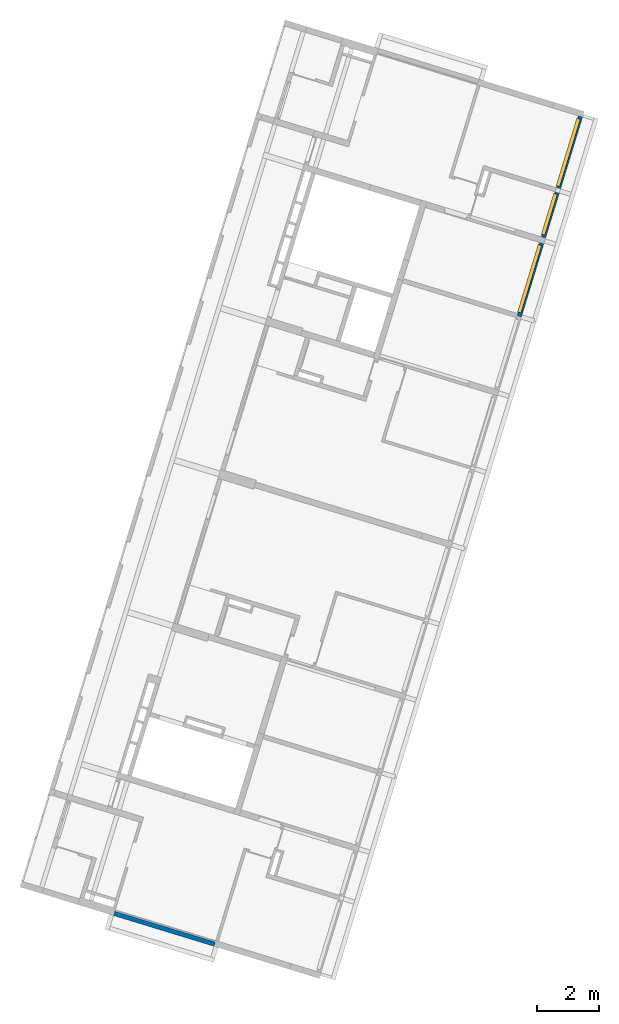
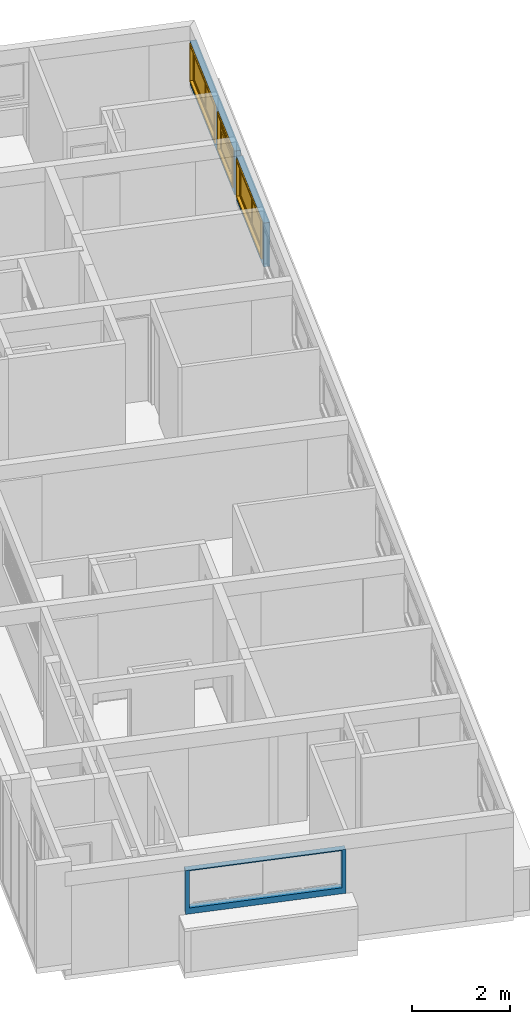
# One storey, part 10 of 18: 3 windows, 2 walls, 4 openings.
"""IFC2X3 building model written with IfcOpenShell, lengths in millimetres."""

from ifc_helpers import new_model, entity, si_unit, converted_unit, derived_unit, money_unit, direction, frame, origin_with_axes, place, context, subcontext, project, spatial, open_shell, faceted_brep, surface_model, source, transform, mapped, material, type_object, element, fill, save


model = new_model("IFC2X3")

# Units and contexts
model_context = context("Model", 3, precision=0.01, world=origin_with_axes(), true_north=direction((0.0, 1.0)))
body_context = subcontext(model_context, "Body", "Model", "MODEL_VIEW")
ifc_project = project(units=[si_unit("LENGTHUNIT", "METRE", prefix="MILLI"), si_unit("AREAUNIT", "SQUARE_METRE"), si_unit("VOLUMEUNIT", "CUBIC_METRE"), converted_unit("PLANEANGLEUNIT", "DEGREE", entity("IfcPlaneAngleMeasure", 0.0174532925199), si_unit("PLANEANGLEUNIT", "RADIAN"), dimensions=[0, 0, 0, 0, 0, 0, 0]), money_unit("USD"), converted_unit("TIMEUNIT", "Year", entity("IfcTimeMeasure", 31556926.0), si_unit("TIMEUNIT", "SECOND"), dimensions=[0, 0, 1, 0, 0, 0, 0]), si_unit("MASSUNIT", "GRAM", prefix="KILO"), si_unit("THERMODYNAMICTEMPERATUREUNIT", "DEGREE_CELSIUS"), si_unit("LUMINOUSINTENSITYUNIT", "LUMEN"), si_unit("ENERGYUNIT", "JOULE", prefix="MEGA"), derived_unit("THERMALCONDUCTANCEUNIT", [(si_unit("POWERUNIT", "WATT"), 1), (si_unit("LENGTHUNIT", "METRE"), -1), (si_unit("THERMODYNAMICTEMPERATUREUNIT", "KELVIN"), -1)]), derived_unit("SPECIFICHEATCAPACITYUNIT", [(si_unit("ENERGYUNIT", "JOULE"), 1), (si_unit("MASSUNIT", "GRAM", prefix="KILO"), -1), (si_unit("THERMODYNAMICTEMPERATUREUNIT", "KELVIN"), -1)]), derived_unit("MASSDENSITYUNIT", [(si_unit("MASSUNIT", "GRAM", prefix="KILO"), 1), (si_unit("VOLUMEUNIT", "CUBIC_METRE"), -1)])], contexts=[model_context])

# Site, building, storey, space
site_placement = place(None, frame((0.0, 0.0, 0.0), z_axis=(0.0, 0.0, 1.0), x_axis=(0.956304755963, -0.292371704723, 0.0)))
site = spatial("IfcSite", under=ifc_project, at=site_placement, Name="Site", CompositionType="ELEMENT")
building_placement = place(site_placement, origin_with_axes())
building = spatial("IfcBuilding", under=site, at=building_placement, Name="Building", CompositionType="ELEMENT")
storey_placement = place(building_placement, origin_with_axes())
storey = spatial("IfcBuildingStorey", under=building, at=storey_placement, Name="Pavimento tipo", CompositionType="ELEMENT", Elevation=0.0)
space_1_placement = place(storey_placement, frame((1481.71507604, 4250.00139822, 0.0), z_axis=(0.0, 0.0, 1.0), x_axis=(3.39571890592e-07, -1.0, 0.0)))
space_1 = spatial("IfcSpace", under=storey, at=space_1_placement, Name="01", CompositionType="ELEMENT", InteriorOrExteriorSpace="INTERNAL")

# Wall, opening
ifc_material = material(Name="Tijolo - Estrutural")
wall_type = type_object("IfcWallType", Name="Tijolo - Estrutural 140", PredefinedType="NOTDEFINED")
wall_1_placement = place(space_1_placement, frame((4250.00154947, 1059.9948804, 1100.0), z_axis=(0.0, 0.0, 1.0), x_axis=(3.87173158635e-07, 1.0, 0.0)))
wall_1 = element("IfcWall", 1, at=wall_1_placement, inside=space_1, type_object=wall_type, material=ifc_material, Name="Apt 01 - Parede 03", context=body_context, shape_type="Brep", body=[
    faceted_brep([(75.0043393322, 3.57030174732e-06, 1075.0), (75.004332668, 140.00000357, 1075.0), (3295.00433267, 140.000156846, 1075.0), (3295.00433933, 0.000156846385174, 1075.0), (75.004332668, 140.00000357, 150.0), (75.0043393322, 3.57030169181e-06, 150.0), (-6.66417765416e-06, 140.0, 1100.0), (3370.00164785, 140.000160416, 1100.0), (3370.00164785, 140.000160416, 0.0), (-6.66417765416e-06, 140.0, 0.0), (3295.00433267, 140.000156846, 150.0), (3295.00433933, 0.000156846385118, 150.0), (0.0, 0.0, 0.0), (3370.00165451, 0.00016041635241, 0.0), (3370.00165451, 0.000160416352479, 1100.0), (0.0, 0.0, 1100.0)], [[[0, 1, 2, 3]], [[4, 1, 0, 5]], [[6, 7, 8, 9], [4, 10, 2, 1]], [[3, 2, 10, 11]], [[12, 13, 14, 15], [0, 3, 11, 5]], [[10, 4, 5, 11]], [[15, 14, 7, 6]], [[13, 8, 7, 14]], [[9, 8, 13, 12]], [[6, 9, 12, 15]]]),
])
opening_1_placement = place(wall_1_placement, frame((1685.00433933, 0.0, 150.0), z_axis=(0.0, 0.0, 1.0), x_axis=(1.0, 0.0, 0.0)))
element("IfcOpeningElement", 2, at=opening_1_placement, cuts=wall_1, Name="Apt 01 - J06", context=body_context, shape_type="Brep", body=[
    faceted_brep([(1609.99999334, 140.000156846, 0.0), (1609.99999334, 140.000156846, 925.0), (1609.99999762, 50.0001568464, 925.0), (1609.99999762, 50.0001568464, 0.0), (-1685.00000666, 140.0, 1000.0), (-1685.00000666, 140.0, -75.0), (1684.99999334, 140.000160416, -75.0), (1684.99999334, 140.000160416, 1000.0), (-1610.00000666, 140.00000357, 925.0), (-1610.00000666, 140.00000357, 0.0), (-1610.00000238, 50.0000035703, 925.0), (-1609.99999995, -1.00015684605, 925.0), (1610.00000005, -1.00000356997, 925.0), (1610.00000005, -1.00000356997, 0.0), (-1609.99999995, -1.00015684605, 0.0), (-1610.00000238, 50.0000035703, 0.0), (-1685.00000671, 141.0, 1000.0), (-1685.00000671, 141.0, -75.0), (1684.99999329, 141.000160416, -75.0), (1684.99999329, 141.000160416, 1000.0)], [[[0, 1, 2, 3]], [[4, 5, 6, 7], [8, 1, 0, 9]], [[1, 8, 10, 11, 12, 2]], [[3, 2, 12, 13]], [[9, 0, 3, 13, 14, 15]], [[5, 4, 16, 17]], [[6, 5, 17, 18]], [[7, 6, 18, 19]], [[4, 7, 19, 16]], [[8, 9, 15, 10]], [[10, 15, 14, 11]], [[11, 14, 13, 12]], [[18, 17, 16, 19]]]),
])

# Space
space_2_placement = place(storey_placement, frame((1481.71158317, 24839.9981298, 0.0), z_axis=(0.0, 0.0, 1.0), x_axis=(1.0, -1.55460451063e-08, 0.0)))
space_2 = spatial("IfcSpace", under=storey, at=space_2_placement, Name="04", CompositionType="ELEMENT", InteriorOrExteriorSpace="INTERNAL")

# Wall, openings, windows
wall_2_placement = place(space_2_placement, frame((7960.00096215, 4059.99202827, 1100.0), z_axis=(0.0, 0.0, 1.0), x_axis=(1.40741188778e-07, -1.0, 0.0)))
wall_2 = element("IfcWall", 3, at=wall_2_placement, inside=space_2, type_object=wall_type, material=ifc_material, Name="Apt 04 - Parede 24", context=body_context, shape_type="Brep", body=[
    faceted_brep([(4249.99998247, -140.0, 0.0), (6705.00534975, -140.0, 0.0), (6705.00534975, -140.0, 1100.0), (4249.99998247, -140.0, 1100.0), (6585.00533222, -140.0, 150.0), (4325.00533222, -140.0, 150.0), (4325.00533222, -140.0, 1075.0), (6585.00533222, -140.0, 1075.0), (4250.0, -0.00222626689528, 0.0), (6705.00534975, 0.0, 0.0), (6705.00534975, 0.0, 1100.0), (4250.0, -0.00222626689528, 1100.0), (6585.00533222, 0.0, 150.0), (4325.00533222, 0.0, 150.0), (4325.00533222, 0.0, 1075.0), (6585.00533222, 0.0, 1075.0)], [[[0, 1, 2, 3], [4, 5, 6, 7]], [[8, 9, 1, 0]], [[2, 1, 9, 10]], [[3, 2, 10, 11]], [[11, 8, 0, 3]], [[5, 4, 12, 13]], [[14, 6, 5, 13]], [[15, 7, 6, 14]], [[4, 7, 15, 12]], [[11, 10, 9, 8], [15, 14, 13, 12]]]),
    faceted_brep([(0.0, -140.0, 0.0), (4059.99998247, -140.0, 0.0), (4059.99998247, -140.0, 1100.0), (0.0, -140.0, 1100.0), (87.5053322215, -140.0, 1075.0), (2347.50533222, -140.0, 1075.0), (2347.50533222, -140.0, 150.0), (87.5053322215, -140.0, 150.0), (3977.50533222, -140.0, 150.0), (2607.50533222, -140.0, 150.0), (2607.50533222, -140.0, 1075.0), (3977.50533222, -140.0, 1075.0), (0.0, 0.0, 0.0), (4060.0, -0.00220247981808, 0.0), (4060.0, -0.00220247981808, 1100.0), (0.0, 0.0, 1100.0), (87.5053322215, 0.0, 1075.0), (2347.50533222, 0.0, 1075.0), (2347.50533222, 0.0, 150.0), (87.5053322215, 0.0, 150.0), (3977.50533222, -0.00220247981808, 150.0), (2607.50533222, -0.00220247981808, 150.0), (2607.50533222, -0.00220247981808, 1075.0), (3977.50533222, -0.00220247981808, 1075.0)], [[[0, 1, 2, 3], [4, 5, 6, 7], [8, 9, 10, 11]], [[12, 13, 1, 0]], [[1, 13, 14, 2]], [[3, 2, 14, 15]], [[12, 0, 3, 15]], [[4, 16, 17, 5]], [[17, 18, 6, 5]], [[18, 19, 7, 6]], [[7, 19, 16, 4]], [[9, 8, 20, 21]], [[22, 10, 9, 21]], [[23, 11, 10, 22]], [[8, 11, 23, 20]], [[15, 14, 13, 12], [19, 18, 17, 16], [23, 22, 21, 20]]]),
])
opening_2_placement = place(wall_2_placement, frame((1217.50533222, 0.0, 150.0), z_axis=(0.0, 0.0, 1.0), x_axis=(1.0, 0.0, 0.0)))
opening_2 = element("IfcOpeningElement", 4, at=opening_2_placement, cuts=wall_2, Name="Apt 04 - J07", context=body_context, shape_type="Brep", body=[
    faceted_brep([(1145.0, -141.000839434, 940.0), (-1145.0, -141.000839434, 940.0), (-1145.0, -141.000839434, -15.0), (1145.0, -141.000839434, -15.0), (1145.0, -140.0, 940.0), (-1145.0, -140.0, 940.0), (-1145.0, -140.0, -15.0), (1145.0, -140.0, -15.0), (1130.0, -140.0, 925.0), (-1130.0, -140.0, 925.0), (-1130.0, -140.0, 0.0), (1130.0, -140.0, 0.0), (1130.0, -50.0, 925.0), (1130.0, 1.0008394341, 925.0), (-1130.0, 1.00083943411, 925.0), (-1130.0, -50.0, 925.0), (-1130.0, -50.0, 0.0), (-1130.0, 1.00083943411, 0.0), (1130.0, 1.0008394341, 0.0), (1130.0, -50.0, 0.0)], [[[0, 1, 2, 3]], [[4, 5, 1, 0]], [[5, 6, 2, 1]], [[6, 7, 3, 2]], [[7, 4, 0, 3]], [[6, 5, 4, 7], [8, 9, 10, 11]], [[9, 8, 12, 13, 14, 15]], [[10, 9, 15, 16]], [[11, 10, 16, 17, 18, 19]], [[8, 11, 19, 12]], [[12, 19, 18, 13]], [[13, 18, 17, 14]], [[16, 15, 14, 17]]]),
])
opening_3_placement = place(wall_2_placement, frame((5455.00533222, 0.0, 150.0), z_axis=(0.0, 0.0, 1.0), x_axis=(1.0, 0.0, 0.0)))
opening_3 = element("IfcOpeningElement", 5, at=opening_3_placement, cuts=wall_2, Name="Apt 04 - J09", context=body_context, shape_type="Brep", body=[
    faceted_brep([(-1145.0, -141.000839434, -15.0), (1145.0, -141.000839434, -15.0), (1145.0, -141.000839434, 940.0), (-1145.0, -141.000839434, 940.0), (-1145.0, -140.0, -15.0), (1145.0, -140.0, -15.0), (1145.0, -140.0, 940.0), (-1145.0, -140.0, 940.0), (1130.0, -140.0, 925.0), (-1130.0, -140.0, 925.0), (-1130.0, -140.0, 0.0), (1130.0, -140.0, 0.0), (1130.0, -50.0, 925.0), (1130.0, 1.0008394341, 925.0), (-1130.0, 1.0008394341, 925.0), (-1130.0, -50.0, 925.0), (-1130.0, -50.0, 0.0), (-1130.0, 1.0008394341, 0.0), (1130.0, 1.0008394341, 0.0), (1130.0, -50.0, 0.0)], [[[0, 1, 2, 3]], [[4, 5, 1, 0]], [[5, 6, 2, 1]], [[6, 7, 3, 2]], [[7, 4, 0, 3]], [[6, 5, 4, 7], [8, 9, 10, 11]], [[9, 8, 12, 13, 14, 15]], [[10, 9, 15, 16]], [[11, 10, 16, 17, 18, 19]], [[8, 11, 19, 12]], [[12, 19, 18, 13]], [[13, 18, 17, 14]], [[16, 15, 14, 17]]]),
])
opening_4_placement = place(wall_2_placement, frame((3292.50533222, 0.0, 150.0), z_axis=(0.0, 0.0, 1.0), x_axis=(1.0, 0.0, 0.0)))
opening_4 = element("IfcOpeningElement", 6, at=opening_4_placement, cuts=wall_2, Name="Apt 04 - J08", context=body_context, shape_type="Brep", body=[
    faceted_brep([(-700.0, -141.000839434, -15.0), (700.0, -141.000839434, -15.0), (700.0, -141.000839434, 940.0), (-700.0, -141.000839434, 940.0), (-700.0, -140.0, -15.0), (700.0, -140.0, -15.0), (700.0, -140.0, 940.0), (-700.0, -140.0, 940.0), (685.0, -140.0, 925.0), (-685.0, -140.0, 925.0), (-685.0, -140.0, 0.0), (685.0, -140.0, 0.0), (685.0, -50.0, 925.0), (685.0, 1.0008394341, 925.0), (-685.0, 1.0008394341, 925.0), (-685.0, -50.0, 925.0), (-685.0, -50.0, 0.0), (-685.0, 1.0008394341, 0.0), (685.0, 1.0008394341, 0.0), (685.0, -50.0, 0.0)], [[[0, 1, 2, 3]], [[4, 5, 1, 0]], [[5, 6, 2, 1]], [[6, 7, 3, 2]], [[7, 4, 0, 3]], [[6, 5, 4, 7], [8, 9, 10, 11]], [[9, 8, 12, 13, 14, 15]], [[10, 9, 15, 16]], [[11, 10, 16, 17, 18, 19]], [[8, 11, 19, 12]], [[12, 19, 18, 13]], [[13, 18, 17, 14]], [[16, 15, 14, 17]]]),
])
window_style_1 = type_object("IfcWindowStyle", Name="Janela 26", ConstructionType="NOTDEFINED", OperationType="DOUBLE_PANEL_VERTICAL", ParameterTakesPrecedence=False, Sizeable=False)
shared_shape_1 = source(origin_with_axes(), body_context, "Body", "SurfaceModel", [
    faceted_brep([(1130.0, 0.0, 0.0), (-1130.0, 0.0, 0.0), (-1130.0, 40.0, 0.0), (1130.0, 40.0, 0.0), (1130.0, 0.0, 925.0), (-1130.0, 0.0, 925.0), (1105.0, 0.0, 25.0), (-1105.0, 0.0, 25.0), (-1105.0, 0.0, 900.0), (1105.0, 0.0, 900.0), (-1130.0, 40.0, 925.0), (1130.0, 40.0, 925.0), (1105.0, 40.0, 25.0), (1105.0, 40.0, 900.0), (-1105.0, 40.0, 900.0), (-1105.0, 40.0, 25.0)], [[[0, 1, 2, 3]], [[0, 4, 5, 1], [6, 7, 8, 9]], [[1, 5, 10, 2]], [[3, 2, 10, 11], [12, 13, 14, 15]], [[4, 0, 3, 11]], [[5, 4, 11, 10]], [[7, 6, 12, 15]], [[8, 7, 15, 14]], [[9, 8, 14, 13]], [[6, 9, 13, 12]]]),
    faceted_brep([(1145.0, 65.0, -15.0), (1145.0, 40.0, -15.0), (1105.0, 40.0, 25.0), (1105.0, 65.0, 25.0), (1145.0, 65.0, 940.0), (1145.0, 40.0, 940.0), (1105.0, 40.0, 900.0), (1105.0, 65.0, 900.0)], [[[0, 1, 2, 3]], [[4, 5, 1, 0]], [[1, 5, 6, 2]], [[3, 2, 6, 7]], [[0, 3, 7, 4]], [[7, 6, 5, 4]]]),
    faceted_brep([(-1145.0, 65.0, 940.0), (-1145.0, 40.0, 940.0), (-1105.0, 40.0, 900.0), (-1105.0, 65.0, 900.0), (-1145.0, 65.0, -15.0), (-1145.0, 40.0, -15.0), (-1105.0, 40.0, 25.0), (-1105.0, 65.0, 25.0)], [[[0, 1, 2, 3]], [[4, 5, 1, 0]], [[1, 5, 6, 2]], [[3, 2, 6, 7]], [[0, 3, 7, 4]], [[7, 6, 5, 4]]]),
    faceted_brep([(-1145.0, 65.0, -15.0), (-1145.0, 40.0, -15.0), (-1105.0, 40.0, 25.0), (-1105.0, 65.0, 25.0), (1145.0, 65.0, -15.0), (1145.0, 40.0, -15.0), (1105.0, 40.0, 25.0), (1105.0, 65.0, 25.0)], [[[0, 1, 2, 3]], [[4, 5, 1, 0]], [[1, 5, 6, 2]], [[3, 2, 6, 7]], [[0, 3, 7, 4]], [[7, 6, 5, 4]]]),
    faceted_brep([(1145.0, 65.0, 940.0), (1145.0, 40.0, 940.0), (1105.0, 40.0, 900.0), (1105.0, 65.0, 900.0), (-1145.0, 65.0, 940.0), (-1145.0, 40.0, 940.0), (-1105.0, 40.0, 900.0), (-1105.0, 65.0, 900.0)], [[[0, 1, 2, 3]], [[4, 5, 1, 0]], [[1, 5, 6, 2]], [[3, 2, 6, 7]], [[0, 3, 7, 4]], [[7, 6, 5, 4]]]),
    faceted_brep([(1045.0, -50.0, 840.0), (1130.0, -50.0, 840.0), (1130.0, 0.0, 840.0), (1045.0, 0.0, 840.0), (1045.0, -50.0, 85.0), (1130.0, -50.0, 85.0), (1130.0, 0.0, 85.0), (1045.0, 0.0, 85.0)], [[[0, 1, 2, 3]], [[0, 4, 5, 1]], [[1, 5, 6, 2]], [[3, 2, 6, 7]], [[4, 0, 3, 7]], [[5, 4, 7, 6]]]),
    faceted_brep([(-1045.0, -50.0, 85.0), (-1130.0, -50.0, 85.0), (-1130.0, 0.0, 85.0), (-1045.0, 0.0, 85.0), (-1045.0, -50.0, 840.0), (-1130.0, -50.0, 840.0), (-1130.0, 0.0, 840.0), (-1045.0, 0.0, 840.0)], [[[0, 1, 2, 3]], [[0, 4, 5, 1]], [[1, 5, 6, 2]], [[3, 2, 6, 7]], [[4, 0, 3, 7]], [[5, 4, 7, 6]]]),
    faceted_brep([(1045.0, -50.0, 85.0), (1130.0, -50.0, 85.0), (1130.0, 0.0, 85.0), (1045.0, 0.0, 85.0), (25.0, -50.0, 85.0), (-25.0, -50.0, 85.0), (-1045.0, -50.0, 85.0), (-1130.0, -50.0, 85.0), (-1130.0, -50.0, 0.0), (1130.0, -50.0, 0.0), (1130.0, 0.0, 0.0), (-1130.0, 0.0, 0.0), (-1130.0, 0.0, 85.0), (-1045.0, 0.0, 85.0), (-25.0, 0.0, 85.0), (25.0, 0.0, 85.0)], [[[0, 1, 2, 3]], [[0, 4, 5, 6, 7, 8, 9, 1]], [[1, 9, 10, 2]], [[3, 2, 10, 11, 12, 13, 14, 15]], [[4, 0, 3, 15]], [[5, 4, 15, 14]], [[6, 5, 14, 13]], [[7, 6, 13, 12]], [[8, 7, 12, 11]], [[9, 8, 11, 10]]]),
    faceted_brep([(25.0, -50.0, 840.0), (-25.0, -50.0, 840.0), (-25.0, 0.0, 840.0), (25.0, 0.0, 840.0), (1045.0, -50.0, 840.0), (1130.0, -50.0, 840.0), (1130.0, -50.0, 925.0), (-1130.0, -50.0, 925.0), (-1130.0, -50.0, 840.0), (-1045.0, -50.0, 840.0), (-1045.0, 0.0, 840.0), (-1130.0, 0.0, 840.0), (-1130.0, 0.0, 925.0), (1130.0, 0.0, 925.0), (1130.0, 0.0, 840.0), (1045.0, 0.0, 840.0)], [[[0, 1, 2, 3]], [[0, 4, 5, 6, 7, 8, 9, 1]], [[1, 9, 10, 2]], [[3, 2, 10, 11, 12, 13, 14, 15]], [[4, 0, 3, 15]], [[5, 4, 15, 14]], [[6, 5, 14, 13]], [[7, 6, 13, 12]], [[8, 7, 12, 11]], [[9, 8, 11, 10]]]),
    faceted_brep([(25.0, -50.0, 85.0), (-25.0, -50.0, 85.0), (-25.0, 0.0, 85.0), (25.0, 0.0, 85.0), (25.0, -50.0, 840.0), (-25.0, -50.0, 840.0), (-25.0, 0.0, 840.0), (25.0, 0.0, 840.0)], [[[0, 1, 2, 3]], [[0, 4, 5, 1]], [[1, 5, 6, 2]], [[3, 2, 6, 7]], [[4, 0, 3, 7]], [[5, 4, 7, 6]]]),
    surface_model("IfcShellBasedSurfaceModel", [(-25.0, -35.0, 85.0), (-25.0, -35.0, 840.0), (-1045.0, -35.0, 840.0), (-1045.0, -35.0, 85.0)], [open_shell([[[0, 1, 2, 3]]])]),
    surface_model("IfcShellBasedSurfaceModel", [(-25.0, -15.0, 85.0), (-1045.0, -15.0, 85.0), (-1045.0, -15.0, 840.0), (-25.0, -15.0, 840.0)], [open_shell([[[0, 1, 2, 3]]])]),
    surface_model("IfcShellBasedSurfaceModel", [(1045.0, -35.0, 85.0), (1045.0, -35.0, 840.0), (25.0, -35.0, 840.0), (25.0, -35.0, 85.0)], [open_shell([[[0, 1, 2, 3]]])]),
    surface_model("IfcShellBasedSurfaceModel", [(1045.0, -15.0, 85.0), (25.0, -15.0, 85.0), (25.0, -15.0, 840.0), (1045.0, -15.0, 840.0)], [open_shell([[[0, 1, 2, 3]]])]),
])
window_1_placement = place(opening_3_placement, frame((1130.0, 0.0, 0.0), z_axis=(0.0, 0.0, 1.0), x_axis=(-1.0, 0.0, 0.0)))
window_1 = element("IfcWindow", 7, at=window_1_placement, inside=space_2, type_object=window_style_1, Name="Apt 04 - J09", OverallHeight=925.0, OverallWidth=2260.0, context=body_context, shape_type="MappedRepresentation", body=[
    mapped(shared_shape_1, transform((1130.0, 100.0, 0.0))),
])
fill(opening_3, window_1)
window_style_2 = type_object("IfcWindowStyle", Name="Janela 26", ConstructionType="NOTDEFINED", OperationType="DOUBLE_PANEL_VERTICAL", ParameterTakesPrecedence=False, Sizeable=False)
shared_shape_2 = source(origin_with_axes(), body_context, "Body", "SurfaceModel", [
    faceted_brep([(-1130.0, 0.0, 0.0), (-1130.0, 40.0, 0.0), (1130.0, 40.0, 0.0), (1130.0, 0.0, 0.0), (-1130.0, 0.0, 925.0), (-1130.0, 40.0, 925.0), (1130.0, 40.0, 925.0), (-1105.0, 40.0, 25.0), (1105.0, 40.0, 25.0), (1105.0, 40.0, 900.0), (-1105.0, 40.0, 900.0), (1130.0, 0.0, 925.0), (-1105.0, 0.0, 25.0), (-1105.0, 0.0, 900.0), (1105.0, 0.0, 900.0), (1105.0, 0.0, 25.0)], [[[0, 1, 2, 3]], [[4, 5, 1, 0]], [[1, 5, 6, 2], [7, 8, 9, 10]], [[3, 2, 6, 11]], [[0, 3, 11, 4], [12, 13, 14, 15]], [[11, 6, 5, 4]], [[15, 8, 7, 12]], [[14, 9, 8, 15]], [[13, 10, 9, 14]], [[12, 7, 10, 13]]]),
    faceted_brep([(-1145.0, 65.0, -15.0), (-1105.0, 65.0, 25.0), (-1105.0, 40.0, 25.0), (-1145.0, 40.0, -15.0), (-1145.0, 65.0, 940.0), (-1105.0, 65.0, 900.0), (-1105.0, 40.0, 900.0), (-1145.0, 40.0, 940.0)], [[[0, 1, 2, 3]], [[0, 4, 5, 1]], [[1, 5, 6, 2]], [[3, 2, 6, 7]], [[4, 0, 3, 7]], [[5, 4, 7, 6]]]),
    faceted_brep([(1145.0, 65.0, 940.0), (1105.0, 65.0, 900.0), (1105.0, 40.0, 900.0), (1145.0, 40.0, 940.0), (1145.0, 65.0, -15.0), (1105.0, 65.0, 25.0), (1105.0, 40.0, 25.0), (1145.0, 40.0, -15.0)], [[[0, 1, 2, 3]], [[0, 4, 5, 1]], [[1, 5, 6, 2]], [[3, 2, 6, 7]], [[4, 0, 3, 7]], [[5, 4, 7, 6]]]),
    faceted_brep([(1145.0, 65.0, -15.0), (1105.0, 65.0, 25.0), (1105.0, 40.0, 25.0), (1145.0, 40.0, -15.0), (-1145.0, 65.0, -15.0), (-1105.0, 65.0, 25.0), (-1105.0, 40.0, 25.0), (-1145.0, 40.0, -15.0)], [[[0, 1, 2, 3]], [[0, 4, 5, 1]], [[1, 5, 6, 2]], [[3, 2, 6, 7]], [[4, 0, 3, 7]], [[5, 4, 7, 6]]]),
    faceted_brep([(-1145.0, 65.0, 940.0), (-1105.0, 65.0, 900.0), (-1105.0, 40.0, 900.0), (-1145.0, 40.0, 940.0), (1145.0, 65.0, 940.0), (1105.0, 65.0, 900.0), (1105.0, 40.0, 900.0), (1145.0, 40.0, 940.0)], [[[0, 1, 2, 3]], [[0, 4, 5, 1]], [[1, 5, 6, 2]], [[3, 2, 6, 7]], [[4, 0, 3, 7]], [[5, 4, 7, 6]]]),
    faceted_brep([(-1045.0, -50.0, 840.0), (-1045.0, 0.0, 840.0), (-1130.0, 0.0, 840.0), (-1130.0, -50.0, 840.0), (-1045.0, -50.0, 85.0), (-1045.0, 0.0, 85.0), (-1130.0, 0.0, 85.0), (-1130.0, -50.0, 85.0)], [[[0, 1, 2, 3]], [[4, 5, 1, 0]], [[1, 5, 6, 2]], [[3, 2, 6, 7]], [[0, 3, 7, 4]], [[7, 6, 5, 4]]]),
    faceted_brep([(1045.0, -50.0, 85.0), (1045.0, 0.0, 85.0), (1130.0, 0.0, 85.0), (1130.0, -50.0, 85.0), (1045.0, -50.0, 840.0), (1045.0, 0.0, 840.0), (1130.0, 0.0, 840.0), (1130.0, -50.0, 840.0)], [[[0, 1, 2, 3]], [[4, 5, 1, 0]], [[1, 5, 6, 2]], [[3, 2, 6, 7]], [[0, 3, 7, 4]], [[7, 6, 5, 4]]]),
    faceted_brep([(-1045.0, -50.0, 85.0), (-1045.0, 0.0, 85.0), (-1130.0, 0.0, 85.0), (-1130.0, -50.0, 85.0), (-25.0, -50.0, 85.0), (-25.0, 0.0, 85.0), (25.0, 0.0, 85.0), (1045.0, 0.0, 85.0), (1130.0, 0.0, 85.0), (1130.0, 0.0, 0.0), (-1130.0, 0.0, 0.0), (-1130.0, -50.0, 0.0), (1130.0, -50.0, 0.0), (1130.0, -50.0, 85.0), (1045.0, -50.0, 85.0), (25.0, -50.0, 85.0)], [[[0, 1, 2, 3]], [[4, 5, 1, 0]], [[1, 5, 6, 7, 8, 9, 10, 2]], [[3, 2, 10, 11]], [[0, 3, 11, 12, 13, 14, 15, 4]], [[15, 6, 5, 4]], [[14, 7, 6, 15]], [[13, 8, 7, 14]], [[12, 9, 8, 13]], [[11, 10, 9, 12]]]),
    faceted_brep([(-25.0, -50.0, 840.0), (-25.0, 0.0, 840.0), (25.0, 0.0, 840.0), (25.0, -50.0, 840.0), (-1045.0, -50.0, 840.0), (-1045.0, 0.0, 840.0), (-1130.0, 0.0, 840.0), (-1130.0, 0.0, 925.0), (1130.0, 0.0, 925.0), (1130.0, 0.0, 840.0), (1045.0, 0.0, 840.0), (1045.0, -50.0, 840.0), (1130.0, -50.0, 840.0), (1130.0, -50.0, 925.0), (-1130.0, -50.0, 925.0), (-1130.0, -50.0, 840.0)], [[[0, 1, 2, 3]], [[4, 5, 1, 0]], [[1, 5, 6, 7, 8, 9, 10, 2]], [[3, 2, 10, 11]], [[0, 3, 11, 12, 13, 14, 15, 4]], [[15, 6, 5, 4]], [[14, 7, 6, 15]], [[13, 8, 7, 14]], [[12, 9, 8, 13]], [[11, 10, 9, 12]]]),
    faceted_brep([(-25.0, -50.0, 85.0), (-25.0, 0.0, 85.0), (25.0, 0.0, 85.0), (25.0, -50.0, 85.0), (-25.0, -50.0, 840.0), (-25.0, 0.0, 840.0), (25.0, 0.0, 840.0), (25.0, -50.0, 840.0)], [[[0, 1, 2, 3]], [[4, 5, 1, 0]], [[1, 5, 6, 2]], [[3, 2, 6, 7]], [[0, 3, 7, 4]], [[7, 6, 5, 4]]]),
    surface_model("IfcShellBasedSurfaceModel", [(25.0, -35.0, 85.0), (1045.0, -35.0, 85.0), (1045.0, -35.0, 840.0), (25.0, -35.0, 840.0)], [open_shell([[[0, 1, 2, 3]]])]),
    surface_model("IfcShellBasedSurfaceModel", [(25.0, -15.0, 85.0), (25.0, -15.0, 840.0), (1045.0, -15.0, 840.0), (1045.0, -15.0, 85.0)], [open_shell([[[0, 1, 2, 3]]])]),
    surface_model("IfcShellBasedSurfaceModel", [(-1045.0, -35.0, 85.0), (-25.0, -35.0, 85.0), (-25.0, -35.0, 840.0), (-1045.0, -35.0, 840.0)], [open_shell([[[0, 1, 2, 3]]])]),
    surface_model("IfcShellBasedSurfaceModel", [(-1045.0, -15.0, 85.0), (-1045.0, -15.0, 840.0), (-25.0, -15.0, 840.0), (-25.0, -15.0, 85.0)], [open_shell([[[0, 1, 2, 3]]])]),
])
window_2_placement = place(opening_2_placement, frame((1130.0, 0.0, 0.0), z_axis=(0.0, 0.0, 1.0), x_axis=(-1.0, 0.0, 0.0)))
window_2 = element("IfcWindow", 8, at=window_2_placement, inside=space_2, type_object=window_style_2, Name="Apt 04 - J07", OverallHeight=925.0, OverallWidth=2260.0, context=body_context, shape_type="MappedRepresentation", body=[
    mapped(shared_shape_2, transform((1130.0, 100.0, 0.0))),
])
fill(opening_2, window_2)
window_style_3 = type_object("IfcWindowStyle", Name="Janela 26", ConstructionType="NOTDEFINED", OperationType="TRIPLE_PANEL_BOTTOM", ParameterTakesPrecedence=False, Sizeable=False)
window_3_placement = place(opening_4_placement, frame((685.0, 0.0, 0.0), z_axis=(0.0, 0.0, 1.0), x_axis=(-1.0, 0.0, 0.0)))
window_3 = element("IfcWindow", 9, at=window_3_placement, inside=space_2, type_object=window_style_3, Name="Apt 04 - J08", OverallHeight=925.0, OverallWidth=1370.0, context=body_context, shape_type="SurfaceModel", body=[
    faceted_brep([(1370.0, 100.0, 0.0), (0.0, 100.0, 0.0), (0.0, 140.0, 0.0), (1370.0, 140.0, 0.0), (1370.0, 100.0, 925.0), (0.0, 100.0, 925.0), (1345.0, 100.0, 25.0), (25.0, 100.0, 25.0), (25.0, 100.0, 900.0), (1345.0, 100.0, 900.0), (0.0, 140.0, 925.0), (1370.0, 140.0, 925.0), (1345.0, 140.0, 25.0), (1345.0, 140.0, 900.0), (25.0, 140.0, 900.0), (25.0, 140.0, 25.0)], [[[0, 1, 2, 3]], [[0, 4, 5, 1], [6, 7, 8, 9]], [[1, 5, 10, 2]], [[3, 2, 10, 11], [12, 13, 14, 15]], [[4, 0, 3, 11]], [[5, 4, 11, 10]], [[7, 6, 12, 15]], [[8, 7, 15, 14]], [[9, 8, 14, 13]], [[6, 9, 13, 12]]]),
    faceted_brep([(1385.0, 165.0, -15.0), (1385.0, 140.0, -15.0), (1345.0, 140.0, 25.0), (1345.0, 165.0, 25.0), (1385.0, 165.0, 940.0), (1385.0, 140.0, 940.0), (1345.0, 140.0, 900.0), (1345.0, 165.0, 900.0)], [[[0, 1, 2, 3]], [[4, 5, 1, 0]], [[1, 5, 6, 2]], [[3, 2, 6, 7]], [[0, 3, 7, 4]], [[7, 6, 5, 4]]]),
    faceted_brep([(-15.0, 165.0, 940.0), (-15.0, 140.0, 940.0), (25.0, 140.0, 900.0), (25.0, 165.0, 900.0), (-15.0, 165.0, -15.0), (-15.0, 140.0, -15.0), (25.0, 140.0, 25.0), (25.0, 165.0, 25.0)], [[[0, 1, 2, 3]], [[4, 5, 1, 0]], [[1, 5, 6, 2]], [[3, 2, 6, 7]], [[0, 3, 7, 4]], [[7, 6, 5, 4]]]),
    faceted_brep([(-15.0, 165.0, -15.0), (-15.0, 140.0, -15.0), (25.0, 140.0, 25.0), (25.0, 165.0, 25.0), (1385.0, 165.0, -15.0), (1385.0, 140.0, -15.0), (1345.0, 140.0, 25.0), (1345.0, 165.0, 25.0)], [[[0, 1, 2, 3]], [[4, 5, 1, 0]], [[1, 5, 6, 2]], [[3, 2, 6, 7]], [[0, 3, 7, 4]], [[7, 6, 5, 4]]]),
    faceted_brep([(1385.0, 165.0, 940.0), (1385.0, 140.0, 940.0), (1345.0, 140.0, 900.0), (1345.0, 165.0, 900.0), (-15.0, 165.0, 940.0), (-15.0, 140.0, 940.0), (25.0, 140.0, 900.0), (25.0, 165.0, 900.0)], [[[0, 1, 2, 3]], [[4, 5, 1, 0]], [[1, 5, 6, 2]], [[3, 2, 6, 7]], [[0, 3, 7, 4]], [[7, 6, 5, 4]]]),
    faceted_brep([(1335.0, 50.0, 500.0), (1285.0, 50.0, 585.0), (1285.0, 100.0, 585.0), (1335.0, 100.0, 500.0), (1335.0, 50.0, 35.0), (1370.0, 50.0, 35.0), (1370.0, 50.0, 840.0), (1285.0, 50.0, 840.0), (1285.0, 100.0, 840.0), (1370.0, 100.0, 840.0), (1370.0, 100.0, 35.0), (1335.0, 100.0, 35.0)], [[[0, 1, 2, 3]], [[0, 4, 5, 6, 7, 1]], [[1, 7, 8, 2]], [[3, 2, 8, 9, 10, 11]], [[4, 0, 3, 11]], [[5, 4, 11, 10]], [[6, 5, 10, 9]], [[7, 6, 9, 8]]]),
    faceted_brep([(35.0, 50.0, 35.0), (0.0, 50.0, 35.0), (0.0, 100.0, 35.0), (35.0, 100.0, 35.0), (35.0, 50.0, 500.0), (85.0, 50.0, 585.0), (85.0, 50.0, 840.0), (0.0, 50.0, 840.0), (0.0, 100.0, 840.0), (85.0, 100.0, 840.0), (85.0, 100.0, 585.0), (35.0, 100.0, 500.0)], [[[0, 1, 2, 3]], [[0, 4, 5, 6, 7, 1]], [[1, 7, 8, 2]], [[3, 2, 8, 9, 10, 11]], [[4, 0, 3, 11]], [[5, 4, 11, 10]], [[6, 5, 10, 9]], [[7, 6, 9, 8]]]),
    faceted_brep([(1285.0, 50.0, 585.0), (1335.0, 50.0, 500.0), (1335.0, 100.0, 500.0), (1285.0, 100.0, 585.0), (710.0, 50.0, 585.0), (660.0, 50.0, 585.0), (85.0, 50.0, 585.0), (35.0, 50.0, 500.0), (35.0, 100.0, 500.0), (85.0, 100.0, 585.0), (660.0, 100.0, 585.0), (710.0, 100.0, 585.0)], [[[0, 1, 2, 3]], [[0, 4, 5, 6, 7, 1]], [[1, 7, 8, 2]], [[3, 2, 8, 9, 10, 11]], [[4, 0, 3, 11]], [[5, 4, 11, 10]], [[6, 5, 10, 9]], [[7, 6, 9, 8]]]),
    faceted_brep([(1335.0, 50.0, 35.0), (1370.0, 50.0, 35.0), (1370.0, 100.0, 35.0), (1335.0, 100.0, 35.0), (35.0, 50.0, 35.0), (0.0, 50.0, 35.0), (0.0, 50.0, 0.0), (1370.0, 50.0, 0.0), (1370.0, 100.0, 0.0), (0.0, 100.0, 0.0), (0.0, 100.0, 35.0), (35.0, 100.0, 35.0)], [[[0, 1, 2, 3]], [[0, 4, 5, 6, 7, 1]], [[1, 7, 8, 2]], [[3, 2, 8, 9, 10, 11]], [[4, 0, 3, 11]], [[5, 4, 11, 10]], [[6, 5, 10, 9]], [[7, 6, 9, 8]]]),
    faceted_brep([(710.0, 50.0, 840.0), (660.0, 50.0, 840.0), (660.0, 100.0, 840.0), (710.0, 100.0, 840.0), (1285.0, 50.0, 840.0), (1370.0, 50.0, 840.0), (1370.0, 50.0, 925.0), (0.0, 50.0, 925.0), (0.0, 50.0, 840.0), (85.0, 50.0, 840.0), (85.0, 100.0, 840.0), (0.0, 100.0, 840.0), (0.0, 100.0, 925.0), (1370.0, 100.0, 925.0), (1370.0, 100.0, 840.0), (1285.0, 100.0, 840.0)], [[[0, 1, 2, 3]], [[0, 4, 5, 6, 7, 8, 9, 1]], [[1, 9, 10, 2]], [[3, 2, 10, 11, 12, 13, 14, 15]], [[4, 0, 3, 15]], [[5, 4, 15, 14]], [[6, 5, 14, 13]], [[7, 6, 13, 12]], [[8, 7, 12, 11]], [[9, 8, 11, 10]]]),
    faceted_brep([(710.0, 50.0, 585.0), (660.0, 50.0, 585.0), (660.0, 100.0, 585.0), (710.0, 100.0, 585.0), (710.0, 50.0, 840.0), (660.0, 50.0, 840.0), (660.0, 100.0, 840.0), (710.0, 100.0, 840.0)], [[[0, 1, 2, 3]], [[0, 4, 5, 1]], [[1, 5, 6, 2]], [[3, 2, 6, 7]], [[4, 0, 3, 7]], [[5, 4, 7, 6]]]),
    surface_model("IfcShellBasedSurfaceModel", [(660.0, 65.0, 585.0), (660.0, 65.0, 840.0), (85.0, 65.0, 840.0), (85.0, 65.0, 585.0)], [open_shell([[[0, 1, 2, 3]]])]),
    surface_model("IfcShellBasedSurfaceModel", [(660.0, 85.0, 585.0), (85.0, 85.0, 585.0), (85.0, 85.0, 840.0), (660.0, 85.0, 840.0)], [open_shell([[[0, 1, 2, 3]]])]),
    surface_model("IfcShellBasedSurfaceModel", [(1285.0, 65.0, 585.0), (1285.0, 65.0, 840.0), (710.0, 65.0, 840.0), (710.0, 65.0, 585.0)], [open_shell([[[0, 1, 2, 3]]])]),
    surface_model("IfcShellBasedSurfaceModel", [(1285.0, 85.0, 585.0), (710.0, 85.0, 585.0), (710.0, 85.0, 840.0), (1285.0, 85.0, 840.0)], [open_shell([[[0, 1, 2, 3]]])]),
    surface_model("IfcShellBasedSurfaceModel", [(1335.0, 65.0, 35.0), (1335.0, 65.0, 500.0), (35.0, 65.0, 500.0), (35.0, 65.0, 35.0)], [open_shell([[[0, 1, 2, 3]]])]),
    surface_model("IfcShellBasedSurfaceModel", [(1335.0, 85.0, 35.0), (35.0, 85.0, 35.0), (35.0, 85.0, 500.0), (1335.0, 85.0, 500.0)], [open_shell([[[0, 1, 2, 3]]])]),
])
fill(opening_4, window_3)

save(model, "model.ifc")
